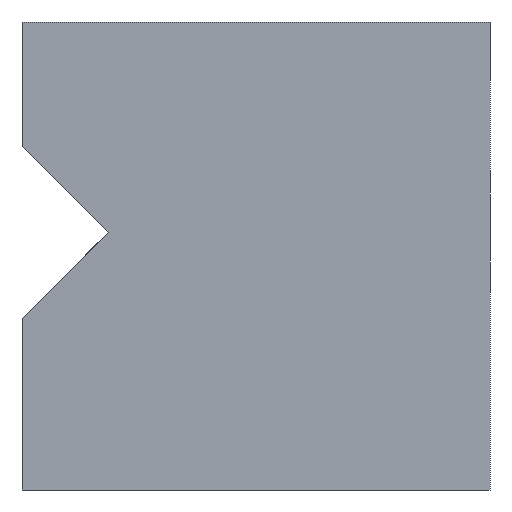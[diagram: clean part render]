
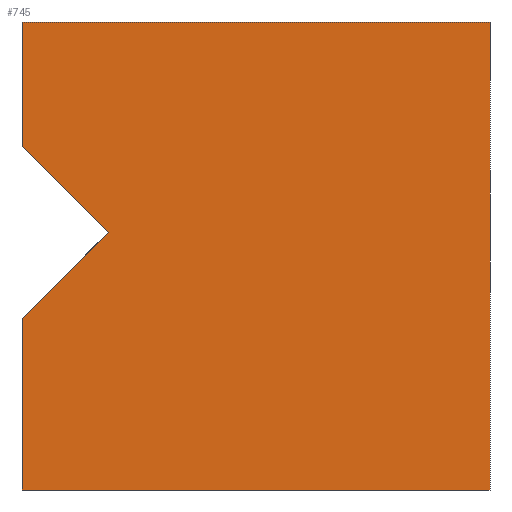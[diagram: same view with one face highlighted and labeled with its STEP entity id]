
A CAD part, front view. The second image highlights one B-rep face of the part: STEP entity #745.
In plain terms, the highlighted planar face has unit normal (0, -1, 0).
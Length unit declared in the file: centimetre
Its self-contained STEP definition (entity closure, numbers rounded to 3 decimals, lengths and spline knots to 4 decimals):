
#5 = CARTESIAN_POINT ( 'NONE',  ( 184.2715, 0., 550.3473 ) ) ;
#7 = ORIENTED_EDGE ( 'NONE', *, *, #174, .T. ) ;
#11 = VERTEX_POINT ( 'NONE', #649 ) ;
#16 = CARTESIAN_POINT ( 'NONE',  ( 0., 0., 1000. ) ) ;
#79 = DIRECTION ( 'NONE',  ( 0., 0., 1. ) ) ;
#80 = VERTEX_POINT ( 'NONE', #779 ) ;
#134 = CARTESIAN_POINT ( 'NONE',  ( 0., 0., 734.6188 ) ) ;
#152 = CARTESIAN_POINT ( 'NONE',  ( 1000., 0., 1000. ) ) ;
#174 = EDGE_CURVE ( 'NONE', #692, #481, #270, .T. ) ;
#178 = ORIENTED_EDGE ( 'NONE', *, *, #596, .T. ) ;
#183 = DIRECTION ( 'NONE',  ( 1., 0., 0. ) ) ;
#231 = LINE ( 'NONE', #152, #840 ) ;
#245 = PLANE ( 'NONE',  #332 ) ;
#252 = LINE ( 'NONE', #588, #600 ) ;
#270 = LINE ( 'NONE', #5, #780 ) ;
#278 = LINE ( 'NONE', #604, #668 ) ;
#307 = CARTESIAN_POINT ( 'NONE',  ( 1000., 0., 0. ) ) ;
#324 = DIRECTION ( 'NONE',  ( 0., 1., 0. ) ) ;
#332 = AXIS2_PLACEMENT_3D ( 'NONE', #1030, #324, #79 ) ;
#353 = EDGE_CURVE ( 'NONE', #937, #11, #424, .T. ) ;
#367 = VERTEX_POINT ( 'NONE', #673 ) ;
#378 = LINE ( 'NONE', #544, #453 ) ;
#384 = DIRECTION ( 'NONE',  ( 0., 0., -1. ) ) ;
#393 = ORIENTED_EDGE ( 'NONE', *, *, #353, .F. ) ;
#424 = LINE ( 'NONE', #739, #641 ) ;
#453 = VECTOR ( 'NONE', #384, 100. ) ;
#455 = DIRECTION ( 'NONE',  ( 0., 0., -1. ) ) ;
#481 = VERTEX_POINT ( 'NONE', #812 ) ;
#539 = ORIENTED_EDGE ( 'NONE', *, *, #947, .T. ) ;
#543 = ORIENTED_EDGE ( 'NONE', *, *, #975, .T. ) ;
#544 = CARTESIAN_POINT ( 'NONE',  ( 0., 0., 1000. ) ) ;
#577 = DIRECTION ( 'NONE',  ( 0.707, 0., -0.707 ) ) ;
#588 = CARTESIAN_POINT ( 'NONE',  ( 0., 0., 1000. ) ) ;
#596 = EDGE_CURVE ( 'NONE', #481, #80, #278, .T. ) ;
#600 = VECTOR ( 'NONE', #455, 100. ) ;
#601 = VECTOR ( 'NONE', #1025, 100. ) ;
#604 = CARTESIAN_POINT ( 'NONE',  ( 0., 0., 366.0757 ) ) ;
#641 = VECTOR ( 'NONE', #183, 100. ) ;
#646 = FACE_OUTER_BOUND ( 'NONE', #1032, .T. ) ;
#649 = CARTESIAN_POINT ( 'NONE',  ( 1000., 0., 1000. ) ) ;
#668 = VECTOR ( 'NONE', #693, 100. ) ;
#673 = CARTESIAN_POINT ( 'NONE',  ( 0., 0., 0. ) ) ;
#675 = EDGE_CURVE ( 'NONE', #11, #877, #231, .T. ) ;
#692 = VERTEX_POINT ( 'NONE', #134 ) ;
#693 = DIRECTION ( 'NONE',  ( -0.707, 0., -0.707 ) ) ;
#716 = LINE ( 'NONE', #950, #601 ) ;
#739 = CARTESIAN_POINT ( 'NONE',  ( 0., 0., 1000. ) ) ;
#745 = ADVANCED_FACE ( 'NONE', ( #646 ), #245, .F. ) ;
#769 = DIRECTION ( 'NONE',  ( 0., 0., -1. ) ) ;
#779 = CARTESIAN_POINT ( 'NONE',  ( 0., 0., 366.0757 ) ) ;
#780 = VECTOR ( 'NONE', #577, 100. ) ;
#812 = CARTESIAN_POINT ( 'NONE',  ( 184.2715, 0., 550.3473 ) ) ;
#836 = ORIENTED_EDGE ( 'NONE', *, *, #675, .F. ) ;
#840 = VECTOR ( 'NONE', #769, 100. ) ;
#877 = VERTEX_POINT ( 'NONE', #307 ) ;
#882 = EDGE_CURVE ( 'NONE', #367, #877, #716, .T. ) ;
#937 = VERTEX_POINT ( 'NONE', #16 ) ;
#947 = EDGE_CURVE ( 'NONE', #80, #367, #252, .T. ) ;
#950 = CARTESIAN_POINT ( 'NONE',  ( 0., 0., 0. ) ) ;
#975 = EDGE_CURVE ( 'NONE', #937, #692, #378, .T. ) ;
#1000 = ORIENTED_EDGE ( 'NONE', *, *, #882, .T. ) ;
#1025 = DIRECTION ( 'NONE',  ( 1., 0., 0. ) ) ;
#1030 = CARTESIAN_POINT ( 'NONE',  ( 0., 0., 1000. ) ) ;
#1032 = EDGE_LOOP ( 'NONE', ( #7, #178, #539, #1000, #836, #393, #543 ) ) ;
